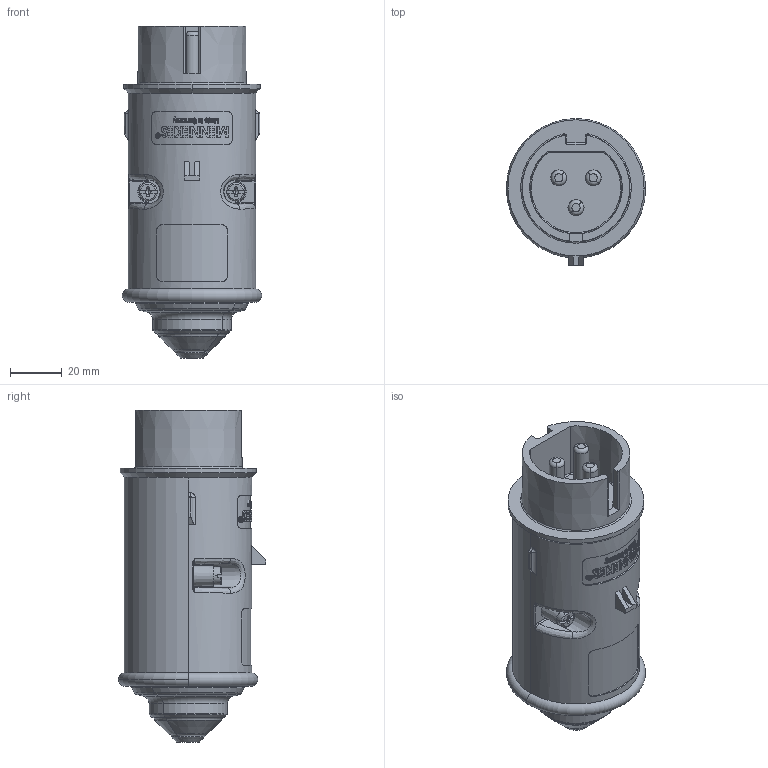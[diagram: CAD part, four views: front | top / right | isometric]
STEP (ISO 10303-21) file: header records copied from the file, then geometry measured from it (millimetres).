
FILE_DESCRIPTION((''),'2;1');
FILE_NAME('1115129_ASM_SW0001','2018-02-02T',('gisse'),('MENNEKES'),'PRO/ENGINEER BY PARAMETRIC TECHNOLOGY CORPORATION, 2015440','PRO/ENGINEER BY PARAMETRIC TECHNOLOGY CORPORATION, 2015440','');
FILE_SCHEMA(('AUTOMOTIVE_DESIGN { 1 0 10303 214 1 1 1 1 }'));
Length unit declared in the file: millimetre
Products named in the file (1): 1115129_ASM_SW0001
Bounding box: 54 x 57 x 128.6 mm (x, y, z)
Volume: 186187.4 mm3; surface area: 27079.1 mm2
Topology: 1 solids, 1 shells, 597 faces, 1570 edges, 1017 vertices
Faces by surface type: plane 302, extrusion 106, cylinder 94, cone 34, bspline 32, torus 25, sphere 4
Entity records: 28496 total; most frequent: CARTESIAN_POINT 7266, ORIENTED_EDGE 3132, DIRECTION 2390, EDGE_CURVE 1566, FILL_AREA_STYLE_COLOUR 1086, FILL_AREA_STYLE 1086, SURFACE_STYLE_FILL_AREA 1086, SURFACE_SIDE_STYLE 1086
